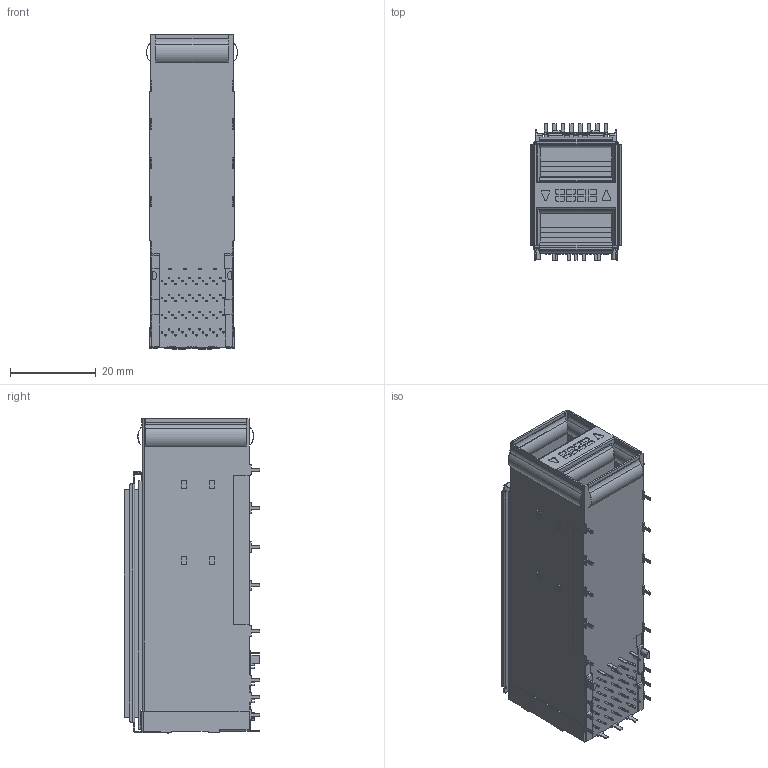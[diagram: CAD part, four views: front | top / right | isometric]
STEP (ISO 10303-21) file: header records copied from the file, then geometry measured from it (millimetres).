
FILE_DESCRIPTION(/* description */ (''),/* implementation_level */ '2;1');
FILE_NAME(/* name */ 'QSFP28 2X1 散热器29.67 外导光柱 左下右上 中间8方孔 3D.stp',/* time_stamp */ '2025-09-19T16:12:48+08:00',/* author */ (''),/* organization */ (''),/* preprocessor_version */ 'ST-DEVELOPER v16.7',/* originating_system */ 'SIEMENS PLM Software NX 1847',/* authorisation */ '');
FILE_SCHEMA (('AUTOMOTIVE_DESIGN { 1 0 10303 214 3 1 1 1 }'));
Length unit declared in the file: millimetre
Products named in the file (1): Admi6968BE71tsg6
Bounding box: 21.26 x 31.72 x 73.44 mm (x, y, z)
Volume: 20873.3 mm3; surface area: 20864.7 mm2
Topology: 1 solids, 1 shells, 1213 faces, 3194 edges, 2100 vertices
Faces by surface type: plane 709, cylinder 485, bspline 12, torus 6, sphere 1
Entity records: 37934 total; most frequent: CARTESIAN_POINT 7041, DIRECTION 6498, ORIENTED_EDGE 6386, EDGE_CURVE 3193, AXIS2_PLACEMENT_3D 2171, LINE 2156, VECTOR 2156, VERTEX_POINT 2100
